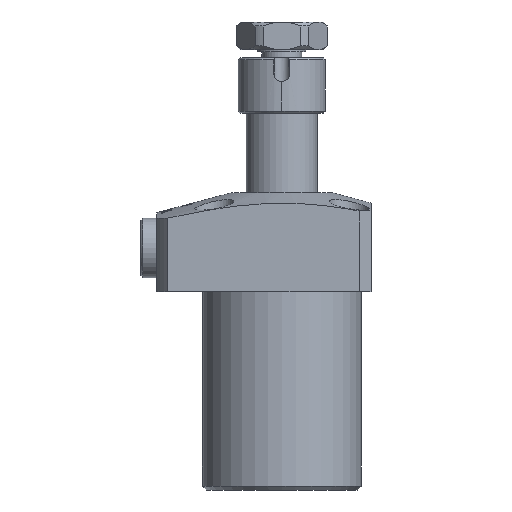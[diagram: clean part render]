
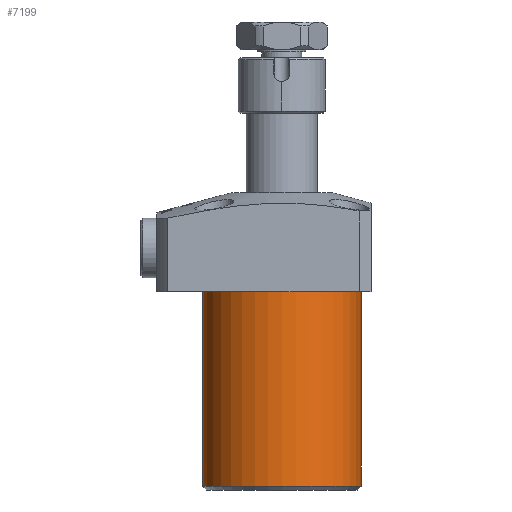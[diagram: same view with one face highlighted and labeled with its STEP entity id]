
A CAD part, front view. The second image highlights one B-rep face of the part: STEP entity #7199.
In plain terms, the highlighted cylindrical face has radius 20 mm (diameter 40 mm), a partial arc.
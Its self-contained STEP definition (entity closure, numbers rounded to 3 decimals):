
#134 = DIRECTION ( 'NONE',  ( 0., 0., 1. ) ) ;
#228 = EDGE_CURVE ( 'NONE', #10516, #1184, #10995, .T. ) ;
#802 = FACE_OUTER_BOUND ( 'NONE', #5462, .T. ) ;
#1099 = DIRECTION ( 'NONE',  ( -1., 0., 0. ) ) ;
#1184 = VERTEX_POINT ( 'NONE', #2178 ) ;
#1188 = VECTOR ( 'NONE', #12291, 1000. ) ;
#1378 = CARTESIAN_POINT ( 'NONE',  ( 0., 0., -50. ) ) ;
#1444 = ORIENTED_EDGE ( 'NONE', *, *, #8327, .T. ) ;
#1556 = CIRCLE ( 'NONE', #3013, 20. ) ;
#2178 = CARTESIAN_POINT ( 'NONE',  ( -20., 0., 0. ) ) ;
#3013 = AXIS2_PLACEMENT_3D ( 'NONE', #13495, #6076, #14747 ) ;
#4398 = VECTOR ( 'NONE', #7623, 1000. ) ;
#4458 = VERTEX_POINT ( 'NONE', #8387 ) ;
#4599 = ORIENTED_EDGE ( 'NONE', *, *, #7159, .T. ) ;
#5239 = CARTESIAN_POINT ( 'NONE',  ( 20., 0., -49. ) ) ;
#5462 = EDGE_LOOP ( 'NONE', ( #9424, #13504, #4599, #1444 ) ) ;
#6076 = DIRECTION ( 'NONE',  ( 0., 0., 1. ) ) ;
#7159 = EDGE_CURVE ( 'NONE', #9624, #4458, #7761, .T. ) ;
#7199 = ADVANCED_FACE ( 'NONE', ( #802 ), #13185, .T. ) ;
#7202 = CIRCLE ( 'NONE', #14890, 20. ) ;
#7623 = DIRECTION ( 'NONE',  ( 0., 0., 1. ) ) ;
#7761 = LINE ( 'NONE', #14717, #1188 ) ;
#8327 = EDGE_CURVE ( 'NONE', #4458, #1184, #7202, .T. ) ;
#8387 = CARTESIAN_POINT ( 'NONE',  ( 20., 0., 0. ) ) ;
#8511 = DIRECTION ( 'NONE',  ( 0., 0., -1. ) ) ;
#9424 = ORIENTED_EDGE ( 'NONE', *, *, #228, .F. ) ;
#9624 = VERTEX_POINT ( 'NONE', #5239 ) ;
#10028 = DIRECTION ( 'NONE',  ( 1., 0., 0. ) ) ;
#10516 = VERTEX_POINT ( 'NONE', #11746 ) ;
#10995 = LINE ( 'NONE', #14959, #4398 ) ;
#11322 = EDGE_CURVE ( 'NONE', #10516, #9624, #1556, .T. ) ;
#11746 = CARTESIAN_POINT ( 'NONE',  ( -20., 0., -49. ) ) ;
#12291 = DIRECTION ( 'NONE',  ( 0., 0., 1. ) ) ;
#13185 = CYLINDRICAL_SURFACE ( 'NONE', #14690, 20. ) ;
#13495 = CARTESIAN_POINT ( 'NONE',  ( 0., 0., -49. ) ) ;
#13504 = ORIENTED_EDGE ( 'NONE', *, *, #11322, .T. ) ;
#14690 = AXIS2_PLACEMENT_3D ( 'NONE', #1378, #134, #10028 ) ;
#14717 = CARTESIAN_POINT ( 'NONE',  ( 20., 0., -50. ) ) ;
#14747 = DIRECTION ( 'NONE',  ( -1., 0., 0. ) ) ;
#14890 = AXIS2_PLACEMENT_3D ( 'NONE', #15905, #8511, #1099 ) ;
#14959 = CARTESIAN_POINT ( 'NONE',  ( -20., 0., -50. ) ) ;
#15905 = CARTESIAN_POINT ( 'NONE',  ( 0., 0., 0. ) ) ;
